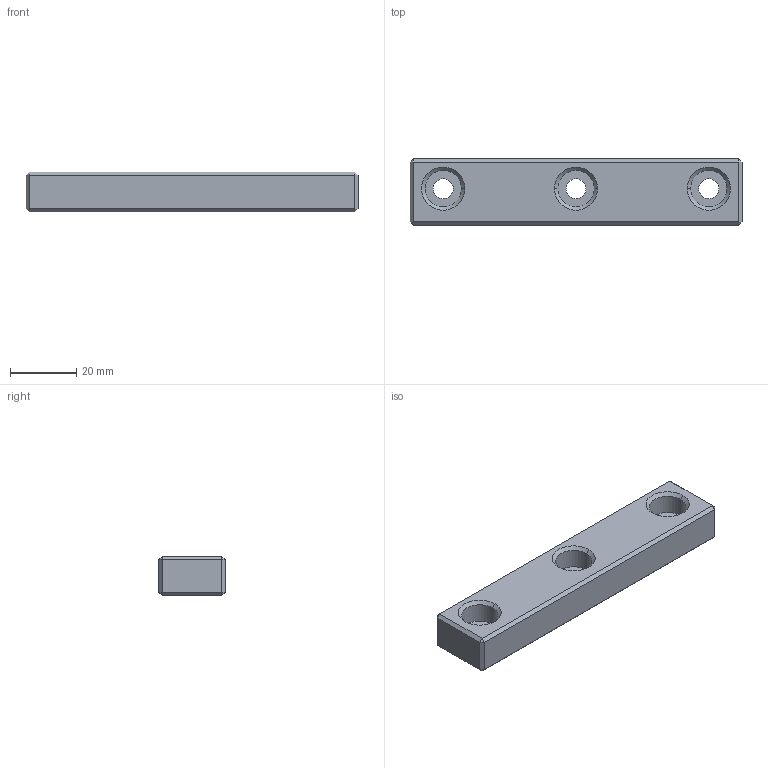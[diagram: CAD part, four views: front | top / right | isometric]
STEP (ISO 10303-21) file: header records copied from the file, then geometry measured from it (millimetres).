
FILE_DESCRIPTION (( 'STEP AP214' ), '1' );
FILE_NAME ('BR3143-20-16-125.STEP', '2020-06-30T08:36:35', ( '' ), ( '' ), 'SwSTEP 2.0', 'SolidWorks 2018', '' );
FILE_SCHEMA (( 'AUTOMOTIVE_DESIGN' ));
Length unit declared in the file: millimetre
Products named in the file (1): BR3143-20-16-125
Bounding box: 100 x 20 x 12 mm (x, y, z)
Volume: 21235.1 mm3; surface area: 7320.4 mm2
Topology: 1 solids, 1 shells, 53 faces, 108 edges, 60 vertices
Faces by surface type: plane 29, cone 12, cylinder 12
Entity records: 1396 total; most frequent: DIRECTION 252, CARTESIAN_POINT 222, ORIENTED_EDGE 216, EDGE_CURVE 108, AXIS2_PLACEMENT_3D 90, LINE 72, VECTOR 72, EDGE_LOOP 62
